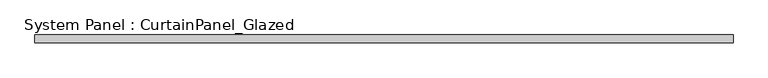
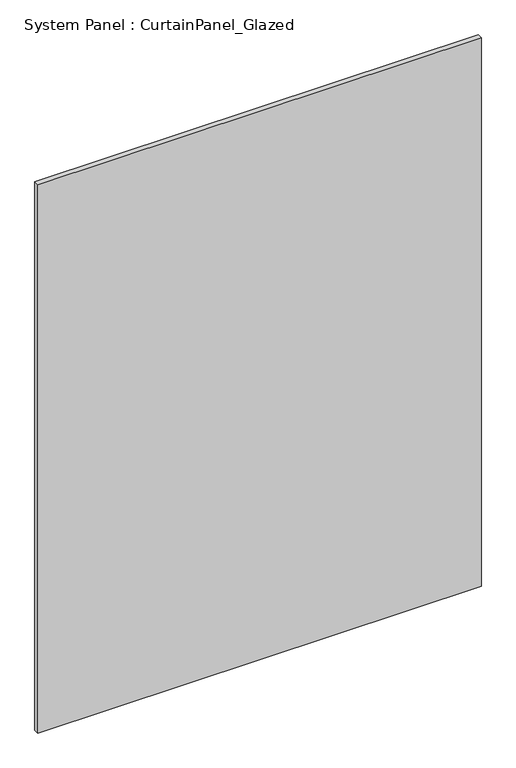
"""IFC4 building model written with IfcOpenShell, lengths in millimetres: plate geometry, System Panel : CurtainPanel_Glazed."""

import ifcopenshell
import ifcopenshell.guid

model = None  # the IFC model being written
_history = None  # IfcOwnerHistory: only IFC2X3 demands one
_inside = {}  # id of a spatial element -> (the spatial element, [elements in it])
_under = {}  # id of a project, library or spatial element -> (it, [spatial elements below it])
_declared = {}  # id of a project -> (the project, [libraries it declares])
_typed = {}  # id of a type object -> (the type object, [elements of that type])
_made_of = {}  # id of a material, layer set ... -> (it, [elements and type objects made of it])


def new_model(schema):
    """Start an empty IFC model of exactly this schema.

    Asked for "IFC4X3", IfcOpenShell would pick the latest addendum, in which some entities
    have other attributes; the version numbers below select the first issue.
    IFC2X3 requires an IfcOwnerHistory on every rooted entity: one is made here for all.
    """
    global model, _history
    if schema == "IFC4X3":
        model = ifcopenshell.file(schema_version=(4, 3, 0, 0))
    else:
        model = ifcopenshell.file(schema=schema)
    _inside.clear()
    _under.clear()
    _declared.clear()
    _typed.clear()
    _made_of.clear()
    _history = None
    if model.schema == "IFC2X3":
        org = make("IfcOrganization", Name="unknown")
        user = make(
            "IfcPersonAndOrganization",
            ThePerson=make("IfcPerson", FamilyName="unknown"),
            TheOrganization=org,
        )
        app = make(
            "IfcApplication",
            ApplicationDeveloper=org,
            Version="unknown",
            ApplicationFullName="unknown",
            ApplicationIdentifier="unknown",
        )
        _history = make(
            "IfcOwnerHistory",
            OwningUser=user,
            OwningApplication=app,
            ChangeAction="ADDED",
            CreationDate=0,
        )
    return model


def make(cls, **values):
    """One entity of the class cls with the attributes given. An attribute that is None is left unset."""
    return model.create_entity(
        cls, **{name: value for name, value in values.items() if value is not None}
    )


def rooted(cls, **values):
    """An entity with a GlobalId (a new one), such as an element, a storey or a relation."""
    return make(cls, GlobalId=ifcopenshell.guid.new(), OwnerHistory=_history, **values)


def si_unit(unit_type, name, prefix=None):
    """IfcSIUnit, for example si_unit("LENGTHUNIT", "METRE", prefix="MILLI")."""
    return make("IfcSIUnit", UnitType=unit_type, Prefix=prefix, Name=name)


def assignment(units):
    """IfcUnitAssignment: the units of a project."""
    return None if units is None else make("IfcUnitAssignment", Units=units)


def point(xyz):
    """IfcCartesianPoint."""
    return None if xyz is None else make("IfcCartesianPoint", Coordinates=xyz)


def direction(xyz):
    """IfcDirection."""
    return None if xyz is None else make("IfcDirection", DirectionRatios=xyz)


def frame(location, z_axis=None, x_axis=None):
    """IfcAxis2Placement3D, a coordinate frame: its origin and axes. An axis left out is left unset."""
    return make(
        "IfcAxis2Placement3D",
        Location=point(location),
        Axis=direction(z_axis),
        RefDirection=direction(x_axis),
    )


def origin():
    """The frame at (0, 0, 0) with its axes left unset."""
    return frame((0.0, 0.0, 0.0))


def origin_with_axes():
    """The frame at (0, 0, 0) with the z axis (0, 0, 1) and the x axis (1, 0, 0) written out."""
    return frame((0.0, 0.0, 0.0), z_axis=(0.0, 0.0, 1.0), x_axis=(1.0, 0.0, 0.0))


def place(relative_to, where):
    """IfcLocalPlacement: puts the frame where relative to a parent placement (None: the world)."""
    return make(
        "IfcLocalPlacement", PlacementRelTo=relative_to, RelativePlacement=where
    )


def context(
    kind, dimensions, precision=None, world=None, true_north=None, identifier=None
):
    """IfcGeometricRepresentationContext, for example the 3D "Model" context."""
    return make(
        "IfcGeometricRepresentationContext",
        ContextIdentifier=identifier,
        ContextType=kind,
        CoordinateSpaceDimension=dimensions,
        Precision=precision,
        WorldCoordinateSystem=world,
        TrueNorth=true_north,
    )


def project(units=None, contexts=None):
    """IfcProject with its units and contexts."""
    return rooted(
        "IfcProject",
        Name="project",
        RepresentationContexts=contexts,
        UnitsInContext=assignment(units),
    )


def spatial(cls, under=None, at=None, **own):
    """A site, building, storey or space (cls), placed at a placement, below another one or the project."""
    s = rooted(cls, ObjectPlacement=at, **own)
    if under is not None:
        _under.setdefault(under.id(), (under, []))[1].append(s)
    return s


def polyline(points):
    """IfcPolyline through the points."""
    return make("IfcPolyline", Points=[point(p) for p in points])


def outline(outer, holes=None, kind="AREA"):
    """IfcArbitraryClosedProfileDef: a profile drawn as a closed curve; with holes, ...WithVoids."""
    if holes is None:
        return make("IfcArbitraryClosedProfileDef", ProfileType=kind, OuterCurve=outer)
    return make(
        "IfcArbitraryProfileDefWithVoids",
        ProfileType=kind,
        OuterCurve=outer,
        InnerCurves=holes,
    )


def extrude(swept, where, along, depth):
    """IfcExtrudedAreaSolid: the profile swept, set in the frame where, extruded along a direction by depth."""
    return make(
        "IfcExtrudedAreaSolid",
        SweptArea=swept,
        Position=where,
        ExtrudedDirection=direction(along),
        Depth=depth,
    )


def shape(context_of_items, identifier, shape_type, items):
    """IfcShapeRepresentation: the items that make up one representation, for example the "Body"."""
    return make(
        "IfcShapeRepresentation",
        ContextOfItems=context_of_items,
        RepresentationIdentifier=identifier,
        RepresentationType=shape_type,
        Items=items,
    )


def source(mapping_origin, context_of_items, identifier, shape_type, items):
    """IfcRepresentationMap: a shape defined once, which mapped items show again and again."""
    return make(
        "IfcRepresentationMap",
        MappingOrigin=mapping_origin,
        MappedRepresentation=shape(context_of_items, identifier, shape_type, items),
    )


def transform(
    local_origin,
    x_axis=None,
    y_axis=None,
    z_axis=None,
    scale=None,
    scale2=None,
    scale3=None,
    uniform=True,
):
    """IfcCartesianTransformationOperator3D, or its non-uniform kind. x_axis, y_axis, z_axis: its Axis1, 2, 3."""
    if uniform:
        return make(
            "IfcCartesianTransformationOperator3D",
            Axis1=direction(x_axis),
            Axis2=direction(y_axis),
            LocalOrigin=point(local_origin),
            Scale=scale,
            Axis3=direction(z_axis),
        )
    return make(
        "IfcCartesianTransformationOperator3DnonUniform",
        Axis1=direction(x_axis),
        Axis2=direction(y_axis),
        LocalOrigin=point(local_origin),
        Scale=scale,
        Axis3=direction(z_axis),
        Scale2=scale2,
        Scale3=scale3,
    )


def mapped(mapping_source, mapping_target):
    """IfcMappedItem: shows the shape of a source again, moved by a transform."""
    return make(
        "IfcMappedItem", MappingSource=mapping_source, MappingTarget=mapping_target
    )


def made_of(thing, what):
    """Note that an element or type object is made of a material, layer set ...; save() writes the relation."""
    if what is not None:
        _made_of.setdefault(what.id(), (what, []))[1].append(thing)
    return thing


def element(
    cls,
    number,
    at=None,
    inside=None,
    cuts=None,
    type_object=None,
    material=None,
    context=None,
    identifier="Body",
    shape_type=None,
    held_by="IfcProductDefinitionShape",
    body=None,
    shapes=None,
    **own,
):
    """One element of the class cls, such as IfcWall. Its Tag is "e" and its number.

    at: its placement. inside: the storey or other place that contains it. cuts: it is an
    opening in that element (IfcRelVoidsElement). A single representation is given by context,
    identifier, shape_type and body (its items); several are given by shapes. held_by: the class
    of the entity that holds the representations. save() writes the other relations.
    """
    e = rooted(cls, Tag="e%d" % number, ObjectPlacement=at, **own)
    if body is not None:
        shapes = [shape(context, identifier, shape_type, body)]
    if shapes is not None:
        e.Representation = make(held_by, Representations=shapes)
    if inside is not None:
        _inside.setdefault(inside.id(), (inside, []))[1].append(e)
    if cuts is not None:
        rooted(
            "IfcRelVoidsElement", RelatingBuildingElement=cuts, RelatedOpeningElement=e
        )
    if type_object is not None:
        _typed.setdefault(type_object.id(), (type_object, []))[1].append(e)
    return made_of(e, material)


def aggregate(whole, parts):
    """IfcRelAggregates: a whole, such as a stair, and the parts it consists of."""
    return rooted("IfcRelAggregates", RelatingObject=whole, RelatedObjects=parts)


def save(model, path):
    """Write the relations noted so far, then the file.

    IfcRelAggregates (storeys below a building ...), IfcRelContainedInSpatialStructure (elements
    in a storey), IfcRelDefinesByType, IfcRelAssociatesMaterial and IfcRelDeclares: one each for
    every whole, place, type object, material and project.
    """
    for whole, parts in _under.values():
        aggregate(whole, parts)
    for where, things in _inside.values():
        rooted(
            "IfcRelContainedInSpatialStructure",
            RelatedElements=things,
            RelatingStructure=where,
        )
    for kind, things in _typed.values():
        rooted("IfcRelDefinesByType", RelatedObjects=things, RelatingType=kind)
    for what, things in _made_of.values():
        rooted("IfcRelAssociatesMaterial", RelatedObjects=things, RelatingMaterial=what)
    for by, libraries in _declared.values():
        rooted("IfcRelDeclares", RelatingContext=by, RelatedDefinitions=libraries)
    model.write(path)


def system_panel_curtainpanel_glazed_3919c2a1(model_context):
    return source(origin(), model_context, "Body", "SweptSolid", [
        extrude(outline(polyline([(1138.6000001, -12.5), (-1138.6000001, -12.5), (-1138.6000001, 12.5), (1138.6000001, 12.5), (1138.6000001, -12.5)])), origin_with_axes(), (0.0, 0.0, 1.0), 2975.0),
    ])


if __name__ == "__main__":
    model = new_model("IFC4")
    model_context = context("Model", 3, world=origin())
    ifc_project = project(units=[si_unit("LENGTHUNIT", "METRE", prefix="MILLI")], contexts=[model_context])
    site = spatial("IfcSite", under=ifc_project)
    building = spatial("IfcBuilding", under=site)
    placement = place(None, origin())
    system_panel_curtainpanel_glazed_shape = system_panel_curtainpanel_glazed_3919c2a1(model_context)
    element("IfcPlate", 1, ObjectType="System Panel : CurtainPanel_Glazed", at=placement, inside=building, context=model_context, shape_type="MappedRepresentation", body=[
        mapped(system_panel_curtainpanel_glazed_shape, transform((0.0, 0.0, 0.0), x_axis=(1.0, 0.0, 0.0), y_axis=(0.0, 1.0, 0.0), z_axis=(0.0, 0.0, 1.0))),
    ])
    save(model, "model.ifc")
